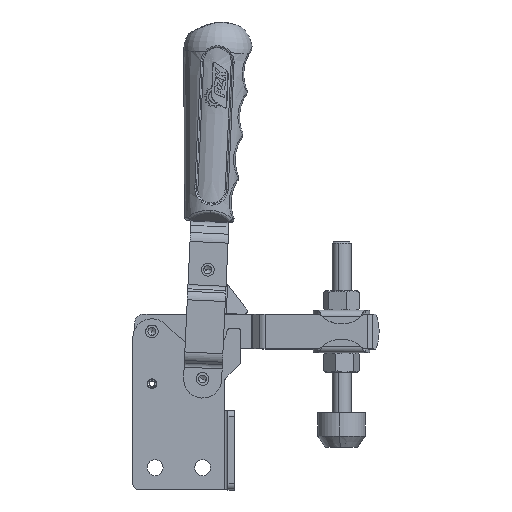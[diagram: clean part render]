
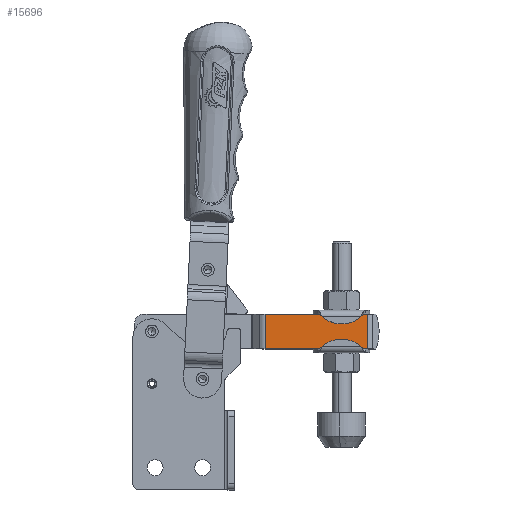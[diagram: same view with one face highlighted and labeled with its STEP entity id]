
A CAD part, top view. The second image highlights one B-rep face of the part: STEP entity #15696.
In plain terms, the highlighted planar face has unit normal (0, 0, 1).
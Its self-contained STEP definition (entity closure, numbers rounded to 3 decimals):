
#11 = DIRECTION ( 'NONE',  ( 1., 0., 0. ) ) ;
#172 = FACE_OUTER_BOUND ( 'NONE', #14355, .T. ) ;
#708 = LINE ( 'NONE', #27967, #4443 ) ;
#925 = DIRECTION ( 'NONE',  ( 1., 0., 0. ) ) ;
#1667 = EDGE_CURVE ( 'NONE', #4904, #26774, #23431, .T. ) ;
#2962 = VERTEX_POINT ( 'NONE', #30013 ) ;
#4443 = VECTOR ( 'NONE', #13350, 1000. ) ;
#4831 = CARTESIAN_POINT ( 'NONE',  ( 41.207, 0., 5. ) ) ;
#4838 = ORIENTED_EDGE ( 'NONE', *, *, #6221, .F. ) ;
#4904 = VERTEX_POINT ( 'NONE', #4831 ) ;
#6200 = VECTOR ( 'NONE', #925, 1000. ) ;
#6221 = EDGE_CURVE ( 'NONE', #18148, #26774, #24175, .T. ) ;
#7868 = VECTOR ( 'NONE', #22207, 1000. ) ;
#8221 = ORIENTED_EDGE ( 'NONE', *, *, #12253, .T. ) ;
#10037 = AXIS2_PLACEMENT_3D ( 'NONE', #27585, #32338, #25454 ) ;
#12253 = EDGE_CURVE ( 'NONE', #2962, #4904, #708, .T. ) ;
#13350 = DIRECTION ( 'NONE',  ( 0., -1., 0. ) ) ;
#13721 = CARTESIAN_POINT ( 'NONE',  ( 41., 0., 5. ) ) ;
#14355 = EDGE_LOOP ( 'NONE', ( #17247, #4838, #29894, #8221 ) ) ;
#14624 = LINE ( 'NONE', #22520, #32274 ) ;
#14785 = PLANE ( 'NONE',  #10037 ) ;
#15696 = ADVANCED_FACE ( 'NONE', ( #172 ), #14785, .F. ) ;
#17247 = ORIENTED_EDGE ( 'NONE', *, *, #1667, .T. ) ;
#18148 = VERTEX_POINT ( 'NONE', #30027 ) ;
#21728 = CARTESIAN_POINT ( 'NONE',  ( 73.422, 11., 5. ) ) ;
#22207 = DIRECTION ( 'NONE',  ( 0., -1., 0. ) ) ;
#22520 = CARTESIAN_POINT ( 'NONE',  ( 41., 11., 5. ) ) ;
#23431 = LINE ( 'NONE', #13721, #6200 ) ;
#24175 = LINE ( 'NONE', #21728, #7868 ) ;
#25454 = DIRECTION ( 'NONE',  ( 0., -1., 0. ) ) ;
#26774 = VERTEX_POINT ( 'NONE', #30924 ) ;
#27585 = CARTESIAN_POINT ( 'NONE',  ( 41., 11., 5. ) ) ;
#27967 = CARTESIAN_POINT ( 'NONE',  ( 41.207, 11., 5. ) ) ;
#29894 = ORIENTED_EDGE ( 'NONE', *, *, #31344, .F. ) ;
#30013 = CARTESIAN_POINT ( 'NONE',  ( 41.207, 11., 5. ) ) ;
#30027 = CARTESIAN_POINT ( 'NONE',  ( 73.422, 11., 5. ) ) ;
#30924 = CARTESIAN_POINT ( 'NONE',  ( 73.422, 0., 5. ) ) ;
#31344 = EDGE_CURVE ( 'NONE', #2962, #18148, #14624, .T. ) ;
#32274 = VECTOR ( 'NONE', #11, 1000. ) ;
#32338 = DIRECTION ( 'NONE',  ( 0., 0., -1. ) ) ;
